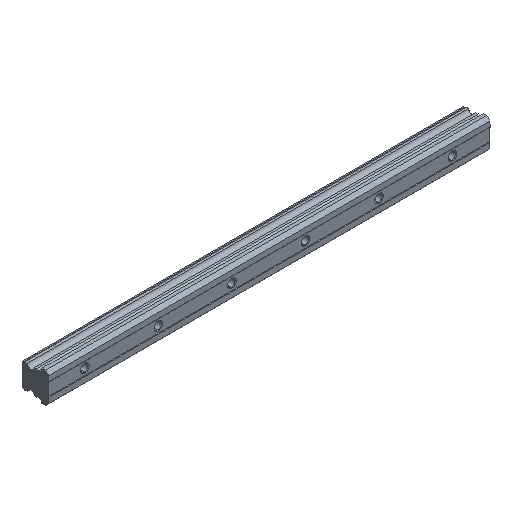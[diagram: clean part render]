
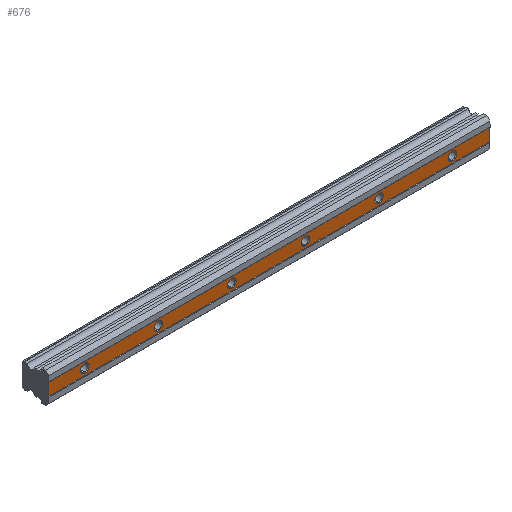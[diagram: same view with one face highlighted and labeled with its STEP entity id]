
A CAD part, isometric view. The second image highlights one B-rep face of the part: STEP entity #676.
In plain terms, the highlighted planar face has unit normal (0, -1, 0).
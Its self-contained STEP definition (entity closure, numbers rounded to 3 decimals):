
#1 = AXIS2_PLACEMENT_3D ( 'NONE', #1864, #2044, #388 ) ;
#42 = CIRCLE ( 'NONE', #1550, 3.5 ) ;
#53 = CARTESIAN_POINT ( 'NONE',  ( 30., 0.5, -3.5 ) ) ;
#60 = VERTEX_POINT ( 'NONE', #420 ) ;
#63 = DIRECTION ( 'NONE',  ( 0., 0., 1. ) ) ;
#64 = VECTOR ( 'NONE', #290, 1000. ) ;
#67 = AXIS2_PLACEMENT_3D ( 'NONE', #1269, #753, #1677 ) ;
#76 = ORIENTED_EDGE ( 'NONE', *, *, #1311, .T. ) ;
#100 = VERTEX_POINT ( 'NONE', #823 ) ;
#101 = ORIENTED_EDGE ( 'NONE', *, *, #2237, .T. ) ;
#127 = EDGE_LOOP ( 'NONE', ( #484, #655 ) ) ;
#131 = DIRECTION ( 'NONE',  ( 0., 0., 1. ) ) ;
#132 = CARTESIAN_POINT ( 'NONE',  ( 0., 0.5, -5. ) ) ;
#150 = ORIENTED_EDGE ( 'NONE', *, *, #356, .F. ) ;
#167 = CARTESIAN_POINT ( 'NONE',  ( 210., 0.5, 0. ) ) ;
#182 = DIRECTION ( 'NONE',  ( 0., 1., 0. ) ) ;
#183 = DIRECTION ( 'NONE',  ( 0., 1., 0. ) ) ;
#212 = DIRECTION ( 'NONE',  ( 0., 0., 1. ) ) ;
#251 = EDGE_CURVE ( 'NONE', #1877, #970, #2118, .T. ) ;
#273 = ORIENTED_EDGE ( 'NONE', *, *, #2365, .T. ) ;
#275 = FACE_BOUND ( 'NONE', #475, .T. ) ;
#290 = DIRECTION ( 'NONE',  ( 0., 0., -1. ) ) ;
#356 = EDGE_CURVE ( 'NONE', #1171, #2363, #1371, .T. ) ;
#357 = CARTESIAN_POINT ( 'NONE',  ( 90., 0.5, -3.5 ) ) ;
#360 = EDGE_CURVE ( 'NONE', #1069, #629, #468, .T. ) ;
#372 = DIRECTION ( 'NONE',  ( 0., 1., 0. ) ) ;
#388 = DIRECTION ( 'NONE',  ( 0., 0., 1. ) ) ;
#399 = CARTESIAN_POINT ( 'NONE',  ( 270., 0.5, -3.5 ) ) ;
#415 = CARTESIAN_POINT ( 'NONE',  ( 150., 0.5, 0. ) ) ;
#420 = CARTESIAN_POINT ( 'NONE',  ( 150., 0.5, 3.5 ) ) ;
#429 = VERTEX_POINT ( 'NONE', #1310 ) ;
#440 = DIRECTION ( 'NONE',  ( 0., 0., 1. ) ) ;
#450 = FACE_BOUND ( 'NONE', #1044, .T. ) ;
#468 = LINE ( 'NONE', #132, #64 ) ;
#475 = EDGE_LOOP ( 'NONE', ( #2172, #1078 ) ) ;
#484 = ORIENTED_EDGE ( 'NONE', *, *, #1097, .T. ) ;
#511 = EDGE_LOOP ( 'NONE', ( #1914, #101 ) ) ;
#519 = ORIENTED_EDGE ( 'NONE', *, *, #360, .T. ) ;
#539 = CARTESIAN_POINT ( 'NONE',  ( 360., 0.5, -5. ) ) ;
#546 = CARTESIAN_POINT ( 'NONE',  ( 330., 0.5, 0. ) ) ;
#553 = CARTESIAN_POINT ( 'NONE',  ( 90., 0.5, 0. ) ) ;
#575 = EDGE_LOOP ( 'NONE', ( #934, #76 ) ) ;
#608 = AXIS2_PLACEMENT_3D ( 'NONE', #1843, #183, #926 ) ;
#622 = CIRCLE ( 'NONE', #1124, 3.5 ) ;
#629 = VERTEX_POINT ( 'NONE', #842 ) ;
#642 = PLANE ( 'NONE',  #1385 ) ;
#643 = DIRECTION ( 'NONE',  ( 0., 0., -1. ) ) ;
#655 = ORIENTED_EDGE ( 'NONE', *, *, #2404, .T. ) ;
#674 = DIRECTION ( 'NONE',  ( 0., 1., 0. ) ) ;
#676 = ADVANCED_FACE ( 'NONE', ( #450, #1190, #1935, #275, #1010, #830, #1568 ), #642, .F. ) ;
#738 = DIRECTION ( 'NONE',  ( 0., 0., 1. ) ) ;
#740 = EDGE_CURVE ( 'NONE', #100, #813, #1232, .T. ) ;
#750 = CARTESIAN_POINT ( 'NONE',  ( 150., 0.5, -3.5 ) ) ;
#753 = DIRECTION ( 'NONE',  ( 0., 1., 0. ) ) ;
#801 = VECTOR ( 'NONE', #643, 1000. ) ;
#803 = CIRCLE ( 'NONE', #1185, 3.5 ) ;
#813 = VERTEX_POINT ( 'NONE', #1307 ) ;
#823 = CARTESIAN_POINT ( 'NONE',  ( 330., 0.5, -3.5 ) ) ;
#830 = FACE_BOUND ( 'NONE', #127, .T. ) ;
#842 = CARTESIAN_POINT ( 'NONE',  ( 0., 0.5, -5. ) ) ;
#865 = EDGE_CURVE ( 'NONE', #1396, #1735, #1149, .T. ) ;
#869 = VERTEX_POINT ( 'NONE', #53 ) ;
#923 = AXIS2_PLACEMENT_3D ( 'NONE', #546, #1792, #131 ) ;
#926 = DIRECTION ( 'NONE',  ( 0., 0., 1. ) ) ;
#933 = CIRCLE ( 'NONE', #1, 3.5 ) ;
#934 = ORIENTED_EDGE ( 'NONE', *, *, #2209, .T. ) ;
#940 = CARTESIAN_POINT ( 'NONE',  ( 360., 0.5, 5. ) ) ;
#970 = VERTEX_POINT ( 'NONE', #2262 ) ;
#977 = ORIENTED_EDGE ( 'NONE', *, *, #251, .T. ) ;
#1010 = FACE_BOUND ( 'NONE', #2206, .T. ) ;
#1044 = EDGE_LOOP ( 'NONE', ( #2015, #1412 ) ) ;
#1051 = VECTOR ( 'NONE', #2389, 1000. ) ;
#1068 = DIRECTION ( 'NONE',  ( 0., 1., 0. ) ) ;
#1069 = VERTEX_POINT ( 'NONE', #2052 ) ;
#1078 = ORIENTED_EDGE ( 'NONE', *, *, #2387, .T. ) ;
#1086 = CARTESIAN_POINT ( 'NONE',  ( 150., 0.5, 0. ) ) ;
#1097 = EDGE_CURVE ( 'NONE', #1841, #1435, #1430, .T. ) ;
#1111 = CARTESIAN_POINT ( 'NONE',  ( 360., 0.5, -5. ) ) ;
#1124 = AXIS2_PLACEMENT_3D ( 'NONE', #1086, #1845, #1827 ) ;
#1146 = CARTESIAN_POINT ( 'NONE',  ( 210., 0.5, -3.5 ) ) ;
#1149 = CIRCLE ( 'NONE', #608, 3.5 ) ;
#1171 = VERTEX_POINT ( 'NONE', #940 ) ;
#1185 = AXIS2_PLACEMENT_3D ( 'NONE', #1884, #1559, #63 ) ;
#1187 = ORIENTED_EDGE ( 'NONE', *, *, #2102, .F. ) ;
#1190 = FACE_BOUND ( 'NONE', #575, .T. ) ;
#1196 = VECTOR ( 'NONE', #1823, 1000. ) ;
#1232 = CIRCLE ( 'NONE', #923, 3.5 ) ;
#1244 = AXIS2_PLACEMENT_3D ( 'NONE', #167, #2199, #1642 ) ;
#1269 = CARTESIAN_POINT ( 'NONE',  ( 270., 0.5, 0. ) ) ;
#1307 = CARTESIAN_POINT ( 'NONE',  ( 330., 0.5, 3.5 ) ) ;
#1310 = CARTESIAN_POINT ( 'NONE',  ( 30., 0.5, 3.5 ) ) ;
#1311 = EDGE_CURVE ( 'NONE', #429, #869, #2125, .T. ) ;
#1330 = CARTESIAN_POINT ( 'NONE',  ( 270., 0.5, 3.5 ) ) ;
#1348 = CIRCLE ( 'NONE', #2399, 3.5 ) ;
#1371 = LINE ( 'NONE', #2327, #801 ) ;
#1372 = DIRECTION ( 'NONE',  ( 0., 1., 0. ) ) ;
#1385 = AXIS2_PLACEMENT_3D ( 'NONE', #1386, #1068, #2017 ) ;
#1386 = CARTESIAN_POINT ( 'NONE',  ( 360., 0.5, -5. ) ) ;
#1396 = VERTEX_POINT ( 'NONE', #1917 ) ;
#1412 = ORIENTED_EDGE ( 'NONE', *, *, #865, .T. ) ;
#1430 = CIRCLE ( 'NONE', #67, 3.5 ) ;
#1435 = VERTEX_POINT ( 'NONE', #1330 ) ;
#1488 = CARTESIAN_POINT ( 'NONE',  ( 360., 0.5, 5. ) ) ;
#1496 = AXIS2_PLACEMENT_3D ( 'NONE', #2132, #674, #1951 ) ;
#1497 = AXIS2_PLACEMENT_3D ( 'NONE', #415, #1372, #440 ) ;
#1506 = ORIENTED_EDGE ( 'NONE', *, *, #1754, .T. ) ;
#1512 = DIRECTION ( 'NONE',  ( 0., 1., 0. ) ) ;
#1550 = AXIS2_PLACEMENT_3D ( 'NONE', #2014, #372, #1854 ) ;
#1559 = DIRECTION ( 'NONE',  ( 0., 1., 0. ) ) ;
#1568 = FACE_BOUND ( 'NONE', #511, .T. ) ;
#1642 = DIRECTION ( 'NONE',  ( 0., 0., 1. ) ) ;
#1663 = LINE ( 'NONE', #1488, #1196 ) ;
#1677 = DIRECTION ( 'NONE',  ( 0., 0., 1. ) ) ;
#1701 = EDGE_CURVE ( 'NONE', #1735, #1396, #1348, .T. ) ;
#1735 = VERTEX_POINT ( 'NONE', #357 ) ;
#1754 = EDGE_CURVE ( 'NONE', #1171, #1069, #1663, .T. ) ;
#1792 = DIRECTION ( 'NONE',  ( 0., 1., 0. ) ) ;
#1803 = EDGE_LOOP ( 'NONE', ( #519, #1187, #150, #1506 ) ) ;
#1804 = LINE ( 'NONE', #1111, #1051 ) ;
#1823 = DIRECTION ( 'NONE',  ( -1., 0., 0. ) ) ;
#1827 = DIRECTION ( 'NONE',  ( 0., 0., 1. ) ) ;
#1841 = VERTEX_POINT ( 'NONE', #399 ) ;
#1843 = CARTESIAN_POINT ( 'NONE',  ( 90., 0.5, 0. ) ) ;
#1845 = DIRECTION ( 'NONE',  ( 0., 1., 0. ) ) ;
#1854 = DIRECTION ( 'NONE',  ( 0., 0., 1. ) ) ;
#1864 = CARTESIAN_POINT ( 'NONE',  ( 330., 0.5, 0. ) ) ;
#1877 = VERTEX_POINT ( 'NONE', #1146 ) ;
#1884 = CARTESIAN_POINT ( 'NONE',  ( 270., 0.5, 0. ) ) ;
#1889 = CARTESIAN_POINT ( 'NONE',  ( 30., 0.5, 0. ) ) ;
#1893 = AXIS2_PLACEMENT_3D ( 'NONE', #1889, #1512, #212 ) ;
#1914 = ORIENTED_EDGE ( 'NONE', *, *, #740, .T. ) ;
#1917 = CARTESIAN_POINT ( 'NONE',  ( 90., 0.5, 3.5 ) ) ;
#1935 = FACE_OUTER_BOUND ( 'NONE', #1803, .T. ) ;
#1951 = DIRECTION ( 'NONE',  ( 0., 0., 1. ) ) ;
#2014 = CARTESIAN_POINT ( 'NONE',  ( 30., 0.5, 0. ) ) ;
#2015 = ORIENTED_EDGE ( 'NONE', *, *, #1701, .T. ) ;
#2017 = DIRECTION ( 'NONE',  ( 0., 0., 1. ) ) ;
#2044 = DIRECTION ( 'NONE',  ( 0., 1., 0. ) ) ;
#2052 = CARTESIAN_POINT ( 'NONE',  ( 0., 0.5, 5. ) ) ;
#2102 = EDGE_CURVE ( 'NONE', #2363, #629, #1804, .T. ) ;
#2118 = CIRCLE ( 'NONE', #1496, 3.5 ) ;
#2125 = CIRCLE ( 'NONE', #1893, 3.5 ) ;
#2132 = CARTESIAN_POINT ( 'NONE',  ( 210., 0.5, 0. ) ) ;
#2172 = ORIENTED_EDGE ( 'NONE', *, *, #2358, .T. ) ;
#2199 = DIRECTION ( 'NONE',  ( 0., 1., 0. ) ) ;
#2206 = EDGE_LOOP ( 'NONE', ( #977, #273 ) ) ;
#2209 = EDGE_CURVE ( 'NONE', #869, #429, #42, .T. ) ;
#2232 = CIRCLE ( 'NONE', #1497, 3.5 ) ;
#2237 = EDGE_CURVE ( 'NONE', #813, #100, #933, .T. ) ;
#2262 = CARTESIAN_POINT ( 'NONE',  ( 210., 0.5, 3.5 ) ) ;
#2291 = CIRCLE ( 'NONE', #1244, 3.5 ) ;
#2324 = VERTEX_POINT ( 'NONE', #750 ) ;
#2327 = CARTESIAN_POINT ( 'NONE',  ( 360., 0.5, -5. ) ) ;
#2358 = EDGE_CURVE ( 'NONE', #2324, #60, #622, .T. ) ;
#2363 = VERTEX_POINT ( 'NONE', #539 ) ;
#2365 = EDGE_CURVE ( 'NONE', #970, #1877, #2291, .T. ) ;
#2387 = EDGE_CURVE ( 'NONE', #60, #2324, #2232, .T. ) ;
#2389 = DIRECTION ( 'NONE',  ( -1., 0., 0. ) ) ;
#2399 = AXIS2_PLACEMENT_3D ( 'NONE', #553, #182, #738 ) ;
#2404 = EDGE_CURVE ( 'NONE', #1435, #1841, #803, .T. ) ;
